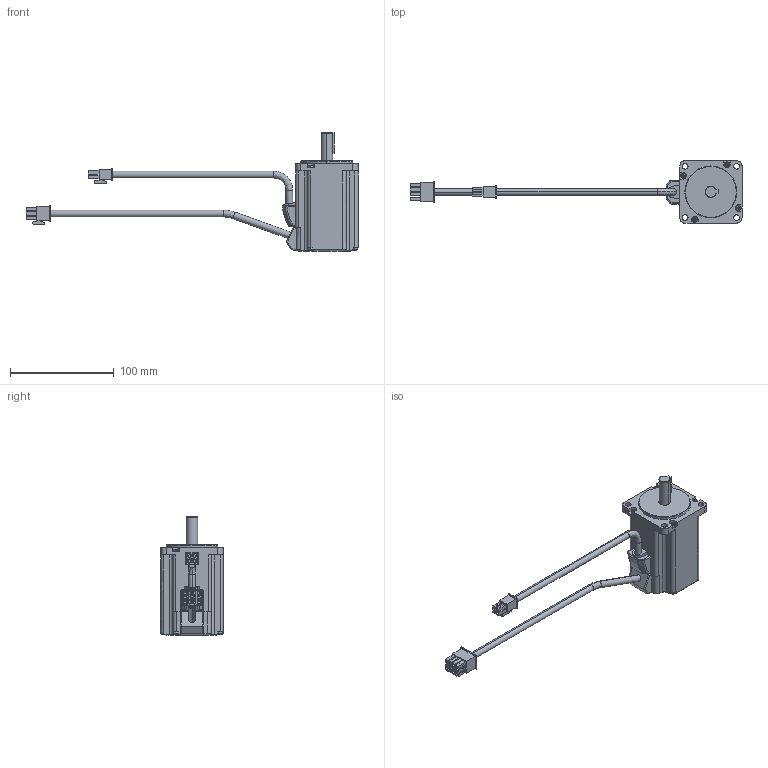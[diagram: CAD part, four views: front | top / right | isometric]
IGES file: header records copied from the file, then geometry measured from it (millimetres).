
Start section:  PTC IGES file: 10001006_rsmz-02ba_no-brake.igs
Global section: file name: 10001006_rsmz-02ba_no-brake.igs; native system: Pro/ENGINEER by Parametric Technology Corporation; preprocessor: 2004440; author: Administrator; organization: Unknown; date: 070829.201130; units: millimetre
Bounding box: 319.76 x 60 x 114.5 mm (x, y, z)
Volume: 296488.2 mm3; surface area: 44434 mm2
Topology: 1 solids, 1 shells, 489 faces, 1231 edges, 800 vertices
Faces by surface type: bspline 349, revolution 140
